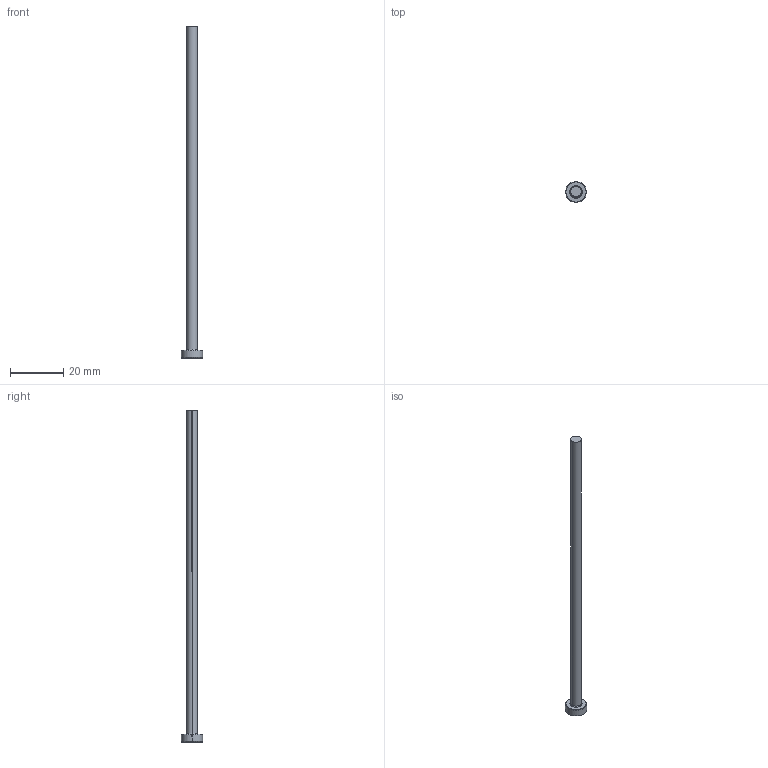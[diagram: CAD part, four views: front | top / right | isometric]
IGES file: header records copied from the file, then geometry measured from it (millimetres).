
Start section: SolidWorks IGES file using analytic representation for surfaces
Global section: file name: C:\Users\365admin\AppData\Local\Temp\InFlowXlateWorking\EPD04L125.igs; native system: SolidWorks 2018; preprocessor: SolidWorks 2018; author: 365admin; date: 200822.055013; units: millimetre
Bounding box: 8 x 8 x 125 mm (x, y, z)
Surface area: 1701.5 mm2 (no closed solid volume)
Topology: 0 solids, 0 shells, 13 faces, 168 edges, 168 vertices
Faces by surface type: revolution 8, bspline 5
